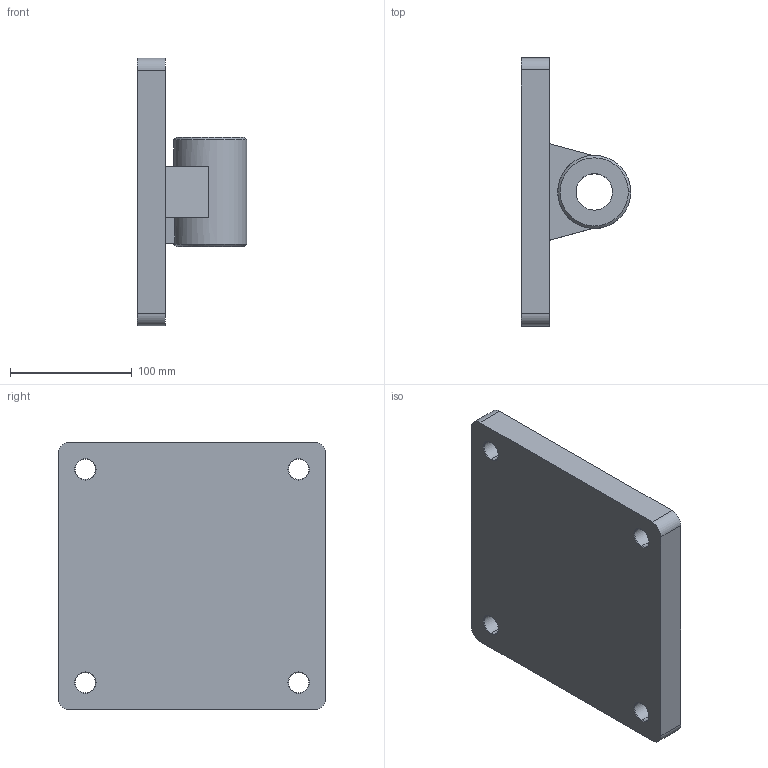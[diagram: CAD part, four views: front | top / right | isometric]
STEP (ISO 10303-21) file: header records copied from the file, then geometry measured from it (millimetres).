
FILE_DESCRIPTION (( 'STEP AP214' ), '1' );
FILE_NAME ('F-SI200CA.STEP', '2016-02-16T16:04:32', ( '' ), ( '' ), 'SwSTEP 2.0', 'SolidWorks 2016', '' );
FILE_SCHEMA (( 'AUTOMOTIVE_DESIGN' ));
Length unit declared in the file: millimetre
Products named in the file (1): F-SI200CA
Bounding box: 90 x 220 x 220 mm (x, y, z)
Volume: 1321073.9 mm3; surface area: 147403.1 mm2
Topology: 1 solids, 1 shells, 72 faces, 167 edges, 102 vertices
Faces by surface type: cone 28, cylinder 24, plane 20
Entity records: 2103 total; most frequent: DIRECTION 395, CARTESIAN_POINT 342, ORIENTED_EDGE 334, EDGE_CURVE 167, AXIS2_PLACEMENT_3D 155, VERTEX_POINT 102, EDGE_LOOP 87, LINE 85
